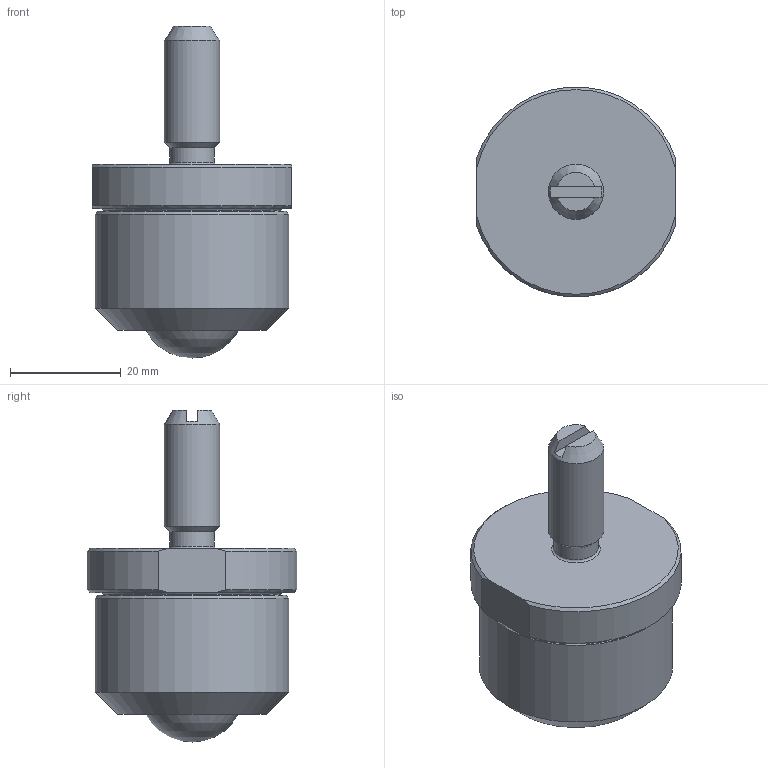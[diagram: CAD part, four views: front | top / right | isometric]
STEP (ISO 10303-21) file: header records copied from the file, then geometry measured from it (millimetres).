
FILE_DESCRIPTION(/* description */ (''),/* implementation_level */ '2;1');
FILE_NAME(/* name */ 'Z:\80-CAD共有ファイル\製品3D\X2\30C730FC30BF\X0\\14-IK-SNM\IK-19SNM.stp',/* time_stamp */ '2015-01-07T09:44:53+09:00',/* author */ ('yamaki'),/* organization */ (''),/* preprocessor_version */ 'ST-DEVELOPER v15.6',/* originating_system */ 'Autodesk Inventor 2015',/* authorisation */ '');
FILE_SCHEMA (('AUTOMOTIVE_DESIGN { 1 0 10303 214 3 1 1 }'));
Length unit declared in the file: millimetre
Products named in the file (1): 1419AA
Bounding box: 36 x 37.87 x 60 mm (x, y, z)
Volume: 31519.5 mm3; surface area: 6675.3 mm2
Topology: 1 solids, 1 shells, 32 faces, 70 edges, 44 vertices
Faces by surface type: plane 12, cone 9, cylinder 7, torus 3, sphere 1
Full cylindrical faces by diameter (mm): 8 x1, 10 x1, 17.8 x1, 32 x1, 35 x1
Entity records: 794 total; most frequent: CARTESIAN_POINT 151, DIRECTION 136, ORIENTED_EDGE 106, AXIS2_PLACEMENT_3D 62, EDGE_CURVE 53, EDGE_LOOP 50, VERTEX_POINT 41, FACE_OUTER_BOUND 32
